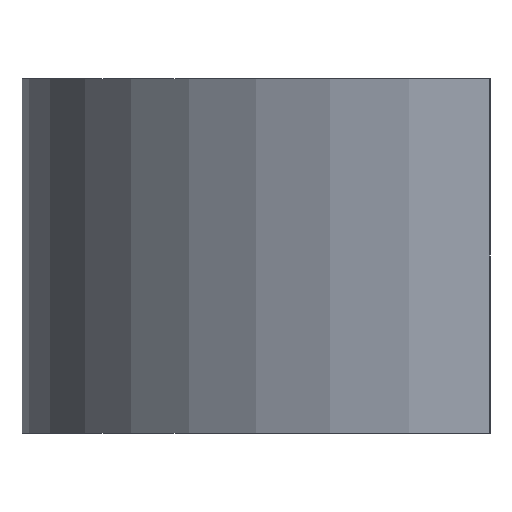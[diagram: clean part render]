
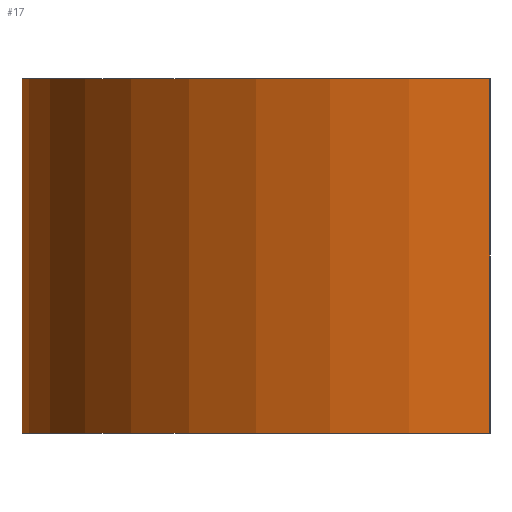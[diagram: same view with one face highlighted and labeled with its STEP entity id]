
A CAD part, front view. The second image highlights one B-rep face of the part: STEP entity #17.
In plain terms, the highlighted cylindrical face has radius 4.49 mm (diameter 8.98 mm), a partial arc.
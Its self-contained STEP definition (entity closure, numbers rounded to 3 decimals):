
#17 = ADVANCED_FACE('',(#18),#33,.T.);
#18 = FACE_BOUND('',#19,.T.);
#19 = EDGE_LOOP('',(#20,#56,#83,#112));
#20 = ORIENTED_EDGE('',*,*,#21,.F.);
#21 = EDGE_CURVE('',#22,#24,#26,.T.);
#22 = VERTEX_POINT('',#23);
#23 = CARTESIAN_POINT('',(0.,4.49,5.2));
#24 = VERTEX_POINT('',#25);
#25 = CARTESIAN_POINT('',(0.,-4.49,5.2));
#26 = SURFACE_CURVE('',#27,(#32,#44),.PCURVE_S1.);
#27 = CIRCLE('',#28,4.49);
#28 = AXIS2_PLACEMENT_3D('',#29,#30,#31);
#29 = CARTESIAN_POINT('',(0.,0.,5.2));
#30 = DIRECTION('',(0.,0.,1.));
#31 = DIRECTION('',(1.,0.,-0.));
#32 = PCURVE('',#33,#38);
#33 = CYLINDRICAL_SURFACE('',#34,4.49);
#34 = AXIS2_PLACEMENT_3D('',#35,#36,#37);
#35 = CARTESIAN_POINT('',(0.,0.,1.8));
#36 = DIRECTION('',(0.,0.,1.));
#37 = DIRECTION('',(1.,0.,-0.));
#38 = DEFINITIONAL_REPRESENTATION('',(#39),#43);
#39 = LINE('',#40,#41);
#40 = CARTESIAN_POINT('',(0.,3.4));
#41 = VECTOR('',#42,1.);
#42 = DIRECTION('',(1.,0.));
#43 = ( GEOMETRIC_REPRESENTATION_CONTEXT(2) 
PARAMETRIC_REPRESENTATION_CONTEXT() REPRESENTATION_CONTEXT('2D SPACE',''
  ) );
#44 = PCURVE('',#45,#50);
#45 = PLANE('',#46);
#46 = AXIS2_PLACEMENT_3D('',#47,#48,#49);
#47 = CARTESIAN_POINT('',(0.,0.,5.2));
#48 = DIRECTION('',(0.,0.,1.));
#49 = DIRECTION('',(1.,0.,-0.));
#50 = DEFINITIONAL_REPRESENTATION('',(#51),#55);
#51 = CIRCLE('',#52,4.49);
#52 = AXIS2_PLACEMENT_2D('',#53,#54);
#53 = CARTESIAN_POINT('',(0.,0.));
#54 = DIRECTION('',(1.,0.));
#55 = ( GEOMETRIC_REPRESENTATION_CONTEXT(2) 
PARAMETRIC_REPRESENTATION_CONTEXT() REPRESENTATION_CONTEXT('2D SPACE',''
  ) );
#56 = ORIENTED_EDGE('',*,*,#57,.F.);
#57 = EDGE_CURVE('',#58,#22,#60,.T.);
#58 = VERTEX_POINT('',#59);
#59 = CARTESIAN_POINT('',(0.,4.49,1.8));
#60 = SURFACE_CURVE('',#61,(#65,#71),.PCURVE_S1.);
#61 = LINE('',#62,#63);
#62 = CARTESIAN_POINT('',(0.,4.49,1.8));
#63 = VECTOR('',#64,1.);
#64 = DIRECTION('',(0.,0.,1.));
#65 = PCURVE('',#33,#66);
#66 = DEFINITIONAL_REPRESENTATION('',(#67),#70);
#67 = B_SPLINE_CURVE_WITH_KNOTS('',1,(#68,#69),.UNSPECIFIED.,.F.,.F.,(2,
    2),(0.,3.4),.PIECEWISE_BEZIER_KNOTS.);
#68 = CARTESIAN_POINT('',(1.571,0.));
#69 = CARTESIAN_POINT('',(1.571,3.4));
#70 = ( GEOMETRIC_REPRESENTATION_CONTEXT(2) 
PARAMETRIC_REPRESENTATION_CONTEXT() REPRESENTATION_CONTEXT('2D SPACE',''
  ) );
#71 = PCURVE('',#72,#77);
#72 = PLANE('',#73);
#73 = AXIS2_PLACEMENT_3D('',#74,#75,#76);
#74 = CARTESIAN_POINT('',(0.,-60.,-70.));
#75 = DIRECTION('',(1.,0.,0.));
#76 = DIRECTION('',(0.,0.,1.));
#77 = DEFINITIONAL_REPRESENTATION('',(#78),#82);
#78 = LINE('',#79,#80);
#79 = CARTESIAN_POINT('',(71.8,-64.49));
#80 = VECTOR('',#81,1.);
#81 = DIRECTION('',(1.,0.));
#82 = ( GEOMETRIC_REPRESENTATION_CONTEXT(2) 
PARAMETRIC_REPRESENTATION_CONTEXT() REPRESENTATION_CONTEXT('2D SPACE',''
  ) );
#83 = ORIENTED_EDGE('',*,*,#84,.T.);
#84 = EDGE_CURVE('',#58,#85,#87,.T.);
#85 = VERTEX_POINT('',#86);
#86 = CARTESIAN_POINT('',(0.,-4.49,1.8));
#87 = SURFACE_CURVE('',#88,(#93,#100),.PCURVE_S1.);
#88 = CIRCLE('',#89,4.49);
#89 = AXIS2_PLACEMENT_3D('',#90,#91,#92);
#90 = CARTESIAN_POINT('',(0.,0.,1.8));
#91 = DIRECTION('',(0.,0.,1.));
#92 = DIRECTION('',(1.,0.,-0.));
#93 = PCURVE('',#33,#94);
#94 = DEFINITIONAL_REPRESENTATION('',(#95),#99);
#95 = LINE('',#96,#97);
#96 = CARTESIAN_POINT('',(0.,0.));
#97 = VECTOR('',#98,1.);
#98 = DIRECTION('',(1.,0.));
#99 = ( GEOMETRIC_REPRESENTATION_CONTEXT(2) 
PARAMETRIC_REPRESENTATION_CONTEXT() REPRESENTATION_CONTEXT('2D SPACE',''
  ) );
#100 = PCURVE('',#101,#106);
#101 = PLANE('',#102);
#102 = AXIS2_PLACEMENT_3D('',#103,#104,#105);
#103 = CARTESIAN_POINT('',(0.,0.,1.8));
#104 = DIRECTION('',(0.,0.,1.));
#105 = DIRECTION('',(1.,0.,-0.));
#106 = DEFINITIONAL_REPRESENTATION('',(#107),#111);
#107 = CIRCLE('',#108,4.49);
#108 = AXIS2_PLACEMENT_2D('',#109,#110);
#109 = CARTESIAN_POINT('',(0.,0.));
#110 = DIRECTION('',(1.,0.));
#111 = ( GEOMETRIC_REPRESENTATION_CONTEXT(2) 
PARAMETRIC_REPRESENTATION_CONTEXT() REPRESENTATION_CONTEXT('2D SPACE',''
  ) );
#112 = ORIENTED_EDGE('',*,*,#113,.T.);
#113 = EDGE_CURVE('',#85,#24,#114,.T.);
#114 = SURFACE_CURVE('',#115,(#119,#125),.PCURVE_S1.);
#115 = LINE('',#116,#117);
#116 = CARTESIAN_POINT('',(0.,-4.49,1.8));
#117 = VECTOR('',#118,1.);
#118 = DIRECTION('',(0.,0.,1.));
#119 = PCURVE('',#33,#120);
#120 = DEFINITIONAL_REPRESENTATION('',(#121),#124);
#121 = B_SPLINE_CURVE_WITH_KNOTS('',1,(#122,#123),.UNSPECIFIED.,.F.,.F.,
  (2,2),(0.,3.4),.PIECEWISE_BEZIER_KNOTS.);
#122 = CARTESIAN_POINT('',(4.712,0.));
#123 = CARTESIAN_POINT('',(4.712,3.4));
#124 = ( GEOMETRIC_REPRESENTATION_CONTEXT(2) 
PARAMETRIC_REPRESENTATION_CONTEXT() REPRESENTATION_CONTEXT('2D SPACE',''
  ) );
#125 = PCURVE('',#126,#131);
#126 = PLANE('',#127);
#127 = AXIS2_PLACEMENT_3D('',#128,#129,#130);
#128 = CARTESIAN_POINT('',(0.,-60.,-70.));
#129 = DIRECTION('',(1.,0.,0.));
#130 = DIRECTION('',(0.,0.,1.));
#131 = DEFINITIONAL_REPRESENTATION('',(#132),#136);
#132 = LINE('',#133,#134);
#133 = CARTESIAN_POINT('',(71.8,-55.51));
#134 = VECTOR('',#135,1.);
#135 = DIRECTION('',(1.,0.));
#136 = ( GEOMETRIC_REPRESENTATION_CONTEXT(2) 
PARAMETRIC_REPRESENTATION_CONTEXT() REPRESENTATION_CONTEXT('2D SPACE',''
  ) );
